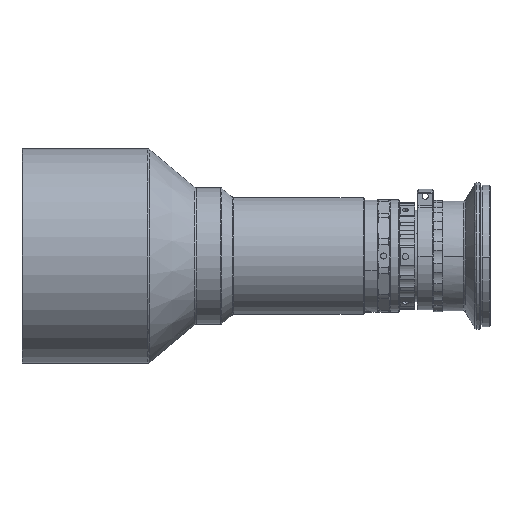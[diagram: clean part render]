
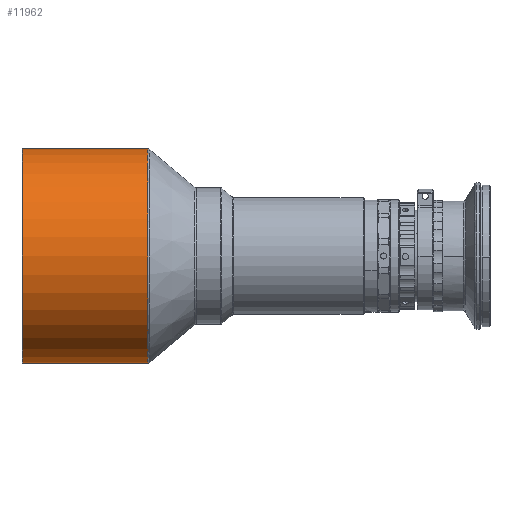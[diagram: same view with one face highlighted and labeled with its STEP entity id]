
A CAD part, front view. The second image highlights one B-rep face of the part: STEP entity #11962.
In plain terms, the highlighted cylindrical face has radius 44 mm (diameter 88 mm), a partial arc.
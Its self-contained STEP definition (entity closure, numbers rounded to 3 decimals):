
#629 = CARTESIAN_POINT ( 'NONE',  ( 51.704, 0., 44. ) ) ;
#1554 = EDGE_CURVE ( 'NONE', #16689, #21949, #8227, .T. ) ;
#2606 = DIRECTION ( 'NONE',  ( 0., 1., 0. ) ) ;
#3017 = VECTOR ( 'NONE', #16306, 1000. ) ;
#3215 = CARTESIAN_POINT ( 'NONE',  ( 51.704, 0., 44. ) ) ;
#3702 = EDGE_CURVE ( 'NONE', #18253, #22958, #11023, .T. ) ;
#4161 = AXIS2_PLACEMENT_3D ( 'NONE', #6897, #11096, #6984 ) ;
#6897 = CARTESIAN_POINT ( 'NONE',  ( 51.704, 0., 0. ) ) ;
#6984 = DIRECTION ( 'NONE',  ( 0., 0., 1. ) ) ;
#7332 = FACE_OUTER_BOUND ( 'NONE', #12984, .T. ) ;
#7514 = CIRCLE ( 'NONE', #18120, 44. ) ;
#7784 = CIRCLE ( 'NONE', #21650, 44. ) ;
#7925 = ORIENTED_EDGE ( 'NONE', *, *, #3702, .F. ) ;
#8227 = LINE ( 'NONE', #629, #3017 ) ;
#8879 = VECTOR ( 'NONE', #24661, 1000. ) ;
#8968 = EDGE_CURVE ( 'NONE', #16689, #18253, #7784, .T. ) ;
#9512 = CARTESIAN_POINT ( 'NONE',  ( 0.3, 0., 0. ) ) ;
#10962 = CARTESIAN_POINT ( 'NONE',  ( 51.704, 0., -44. ) ) ;
#11023 = LINE ( 'NONE', #10962, #8879 ) ;
#11096 = DIRECTION ( 'NONE',  ( -1., 0., 0. ) ) ;
#11962 = ADVANCED_FACE ( 'NONE', ( #7332 ), #13154, .T. ) ;
#12894 = ORIENTED_EDGE ( 'NONE', *, *, #15214, .F. ) ;
#12984 = EDGE_LOOP ( 'NONE', ( #7925, #15808, #23164, #12894 ) ) ;
#13154 = CYLINDRICAL_SURFACE ( 'NONE', #4161, 44. ) ;
#14326 = CARTESIAN_POINT ( 'NONE',  ( 51.704, 0., 0. ) ) ;
#15214 = EDGE_CURVE ( 'NONE', #22958, #21949, #7514, .T. ) ;
#15808 = ORIENTED_EDGE ( 'NONE', *, *, #8968, .F. ) ;
#16306 = DIRECTION ( 'NONE',  ( -1., 0., 0. ) ) ;
#16381 = DIRECTION ( 'NONE',  ( 1., 0., 0. ) ) ;
#16689 = VERTEX_POINT ( 'NONE', #3215 ) ;
#17222 = DIRECTION ( 'NONE',  ( -1., 0., 0. ) ) ;
#18120 = AXIS2_PLACEMENT_3D ( 'NONE', #9512, #17222, #23206 ) ;
#18243 = CARTESIAN_POINT ( 'NONE',  ( 0.3, 0., 44. ) ) ;
#18253 = VERTEX_POINT ( 'NONE', #23573 ) ;
#18535 = CARTESIAN_POINT ( 'NONE',  ( 0.3, 0., -44. ) ) ;
#21650 = AXIS2_PLACEMENT_3D ( 'NONE', #14326, #16381, #2606 ) ;
#21949 = VERTEX_POINT ( 'NONE', #18243 ) ;
#22958 = VERTEX_POINT ( 'NONE', #18535 ) ;
#23164 = ORIENTED_EDGE ( 'NONE', *, *, #1554, .T. ) ;
#23206 = DIRECTION ( 'NONE',  ( 0., 0., 1. ) ) ;
#23573 = CARTESIAN_POINT ( 'NONE',  ( 51.704, 0., -44. ) ) ;
#24661 = DIRECTION ( 'NONE',  ( -1., 0., 0. ) ) ;
